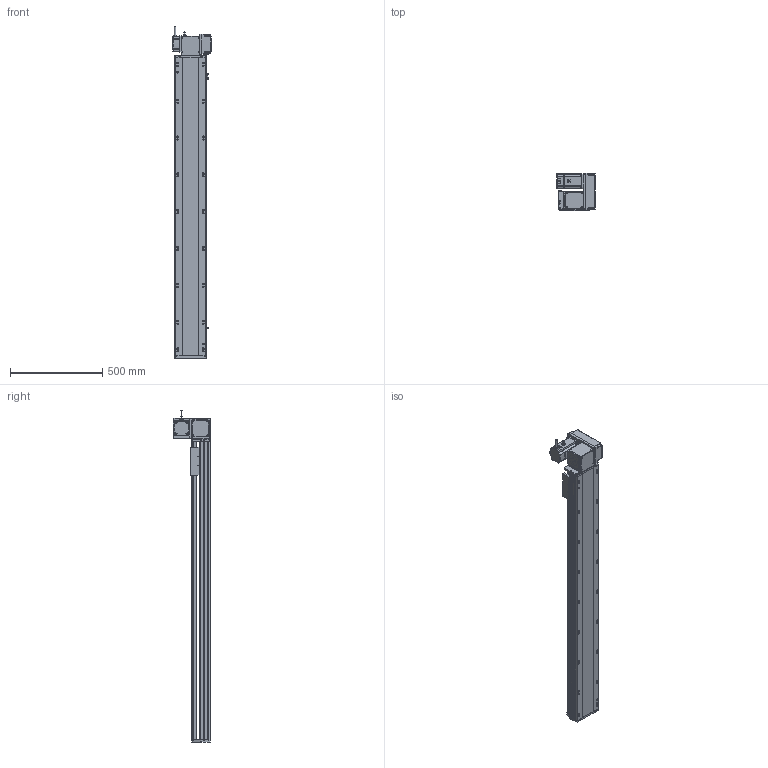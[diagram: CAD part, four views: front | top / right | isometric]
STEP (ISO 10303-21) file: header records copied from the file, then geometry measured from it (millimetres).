
FILE_DESCRIPTION (( 'STEP AP214' ), '1' );
FILE_NAME ('RTB17S-XX-1350-RW-M75-C4.STEP', '2025-12-12T02:38:10', ( '' ), ( '' ), 'SwSTEP 2.0', 'SolidWorks 2018', '' );
FILE_SCHEMA (( 'AUTOMOTIVE_DESIGN' ));
Length unit declared in the file: millimetre
Products named in the file (15): RTB22S-GY-018P^RTB17S-RW-々湍釱蚾饜-750W_RTB17S-XX-XX-RW-M75-C4; RTB17S-RW-々湍釱蚾饜-750W^RTB17S-XX-XX-RW-M75-C4; RTB17-R-011菁釱^RTB17S-XX-XX-RW-M75-C4; RTB22S-GY-017P^RTB17S-RW-々湍釱蚾饜-750W_RTB17S-XX-XX-RW-M75-C4; RMP17S-L-014-T20-P75--々湍釱^RTB17S-RW-々湍釱蚾饜-750W_RTB17S-XX-XX-RW-M75-C4; RTH13-BL-012覜茼え俋离^RTB17S-賑釱_RTB17S-XX-XX-RW-M75-C4; RTB17S-L-007奻裔^RTB17S-XX-XX-RW-M75-C4; RTB17S-XX-1350-RW-M75-C4; RTB22S-GY-008-M75--萇儂啣^RTB17S-RW-々湍釱蚾饜-750W_RTB17S-XX-XX-RW-M75-C4; RTB17S-L-004-賑釱^RTB17S-賑釱_RTB17S-XX-XX-RW-M75-C4; RTB22S-GY-005P^RTB17S-RW-々湍釱蚾饜-750W_RTB17S-XX-XX-RW-M75-C4; 750W萇儂^RTB17S-XX-XX-RW-M75-C4; RTB17S-L-001-耜醱啣^RTB17S-XX-XX-RW-M75-C4; RTB17S-賑釱^RTB17S-XX-XX-RW-M75-C4; EE672^RTB17S-XX-XX-RW-M75-C4
Assembly tree (17 placements, depth 3):
  RTB17S-XX-1350-RW-M75-C4
    RTB17-R-011菁釱^RTB17S-XX-XX-RW-M75-C4
    EE672^RTB17S-XX-XX-RW-M75-C4  x3
    RTB17S-L-001-耜醱啣^RTB17S-XX-XX-RW-M75-C4
    RTB17S-賑釱^RTB17S-XX-XX-RW-M75-C4
      RTB17S-L-004-賑釱^RTB17S-賑釱_RTB17S-XX-XX-RW-M75-C4
      RTH13-BL-012覜茼え俋离^RTB17S-賑釱_RTB17S-XX-XX-RW-M75-C4
    RTB17S-L-007奻裔^RTB17S-XX-XX-RW-M75-C4
    750W萇儂^RTB17S-XX-XX-RW-M75-C4
    RTB17S-RW-々湍釱蚾饜-750W^RTB17S-XX-XX-RW-M75-C4
      RMP17S-L-014-T20-P75--々湍釱^RTB17S-RW-々湍釱蚾饜-750W_RTB17S-XX-XX-RW-M75-C4
      RTB22S-GY-005P^RTB17S-RW-々湍釱蚾饜-750W_RTB17S-XX-XX-RW-M75-C4
      RTB22S-GY-017P^RTB17S-RW-々湍釱蚾饜-750W_RTB17S-XX-XX-RW-M75-C4  x2
      RTB22S-GY-008-M75--萇儂啣^RTB17S-RW-々湍釱蚾饜-750W_RTB17S-XX-XX-RW-M75-C4
      RTB22S-GY-018P^RTB17S-RW-々湍釱蚾饜-750W_RTB17S-XX-XX-RW-M75-C4
Bounding box: 207.4 x 201.5 x 1802.2 mm (x, y, z)
Volume: 14389044.7 mm3; surface area: 2500834.3 mm2
Topology: 17 solids, 17 shells, 2121 faces, 5890 edges, 3806 vertices
Faces by surface type: plane 974, cylinder 731, bspline 294, cone 110, sphere 8, torus 4
Entity records: 59638 total; most frequent: CARTESIAN_POINT 17554, ORIENTED_EDGE 8624, DIRECTION 8042, EDGE_CURVE 4312, AXIS2_PLACEMENT_3D 2826, VERTEX_POINT 2810, LINE 2390, VECTOR 2390
